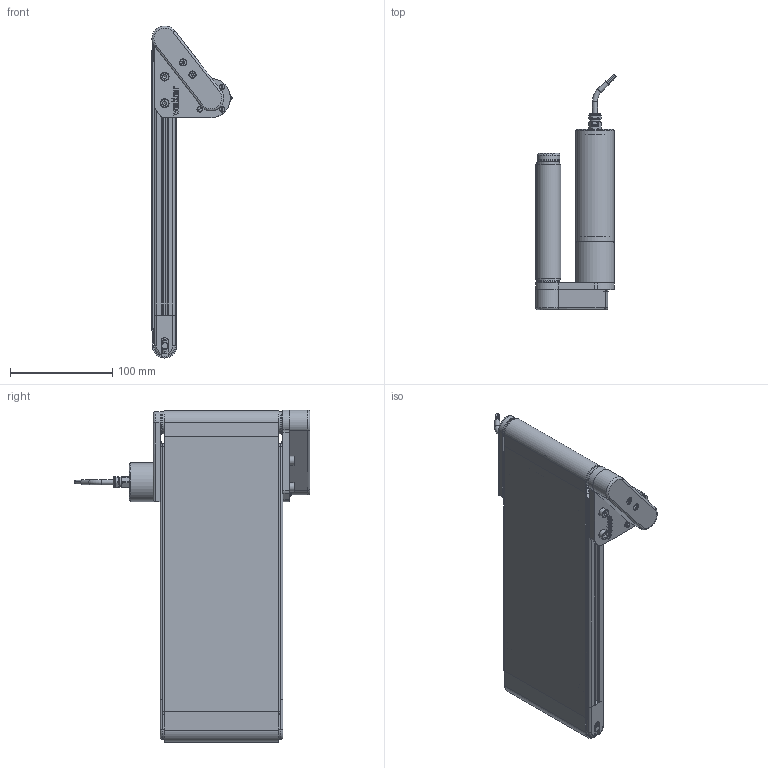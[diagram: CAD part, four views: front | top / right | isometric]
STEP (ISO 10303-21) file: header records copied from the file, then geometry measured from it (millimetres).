
FILE_DESCRIPTION(/* description */ (''),/* implementation_level */ '2;1');
FILE_NAME(/* name */ 'G:\DATEN\CAD\Förderband\Marketing\3D-Modelle (Standard)\BK-20-120\BK-20-120-1-K.stp',/* time_stamp */ '2019-05-13T08:36:35+02:00',/* author */ ('melanie.ochs'),/* organization */ (''),/* preprocessor_version */ 'ST-DEVELOPER v17',/* originating_system */ 'Autodesk Inventor 2019',/* authorisation */ '');
FILE_SCHEMA (('CONFIG_CONTROL_DESIGN'));
Length unit declared in the file: millimetre
Products named in the file (1): BK-20-120-1-K
Bounding box: 78.41 x 230.59 x 324.51 mm (x, y, z)
Volume: 587353.7 mm3; surface area: 454972.6 mm2
Topology: 44 solids, 45 shells, 1165 faces, 3126 edges, 2111 vertices
Faces by surface type: plane 560, cylinder 417, cone 88, bspline 62, torus 38
Full cylindrical faces by diameter (mm): 1 x6, 2 x2, 2.459 x4, 2.5 x8, 2.729 x4, 3 x4, 3.1 x2, 3.242 x4, 3.5 x4, 4 x4, 4.134 x1, 4.3 x5, 4.4 x2, 4.917 x3, 5 x16, 5.2 x2, 5.4 x2, 6 x2, 6.773 x1, 6.917 x1, 7 x5, 8 x3, 8.5 x4, 8.773 x1, 9.5 x2, 10 x7, 11 x1, 12 x2, 16 x2, 19 x4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
Entity records: 39233 total; most frequent: CARTESIAN_POINT 8323, ORIENTED_EDGE 6222, DIRECTION 6200, EDGE_CURVE 3111, AXIS2_PLACEMENT_3D 2265, VERTEX_POINT 2111, LINE 1670, VECTOR 1670
